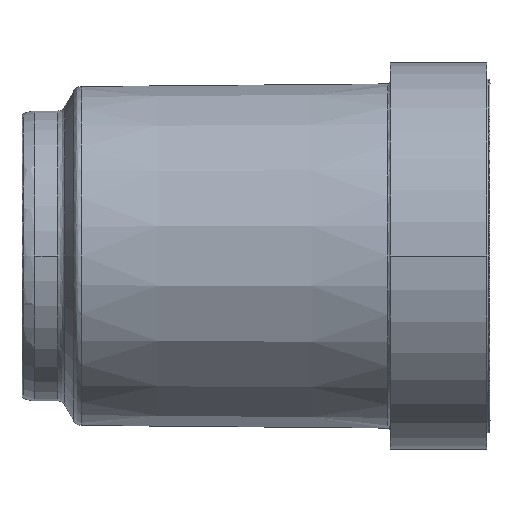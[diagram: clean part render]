
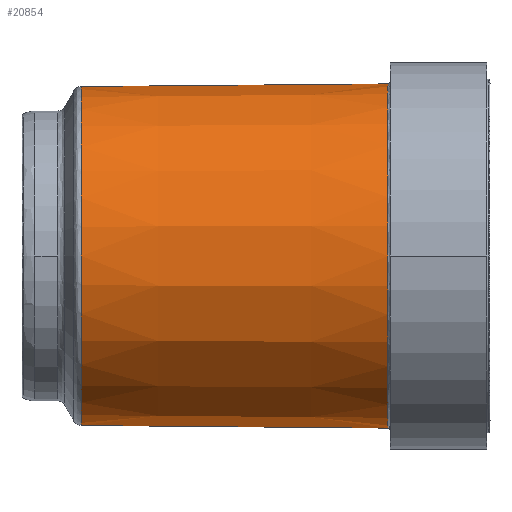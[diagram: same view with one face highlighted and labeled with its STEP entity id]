
A CAD part, front view. The second image highlights one B-rep face of the part: STEP entity #20854.
In plain terms, the highlighted conical face has half-angle 0.5 degrees and reference radius 14.027 mm.
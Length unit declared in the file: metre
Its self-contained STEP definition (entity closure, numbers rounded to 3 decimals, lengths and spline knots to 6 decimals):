
#377 = CARTESIAN_POINT ( 'NONE',  ( 0.004904, 0., 0.014027 ) ) ;
#456 = LINE ( 'NONE', #377, #746 ) ;
#746 = VECTOR ( 'NONE', #5817, 1. ) ;
#759 = EDGE_CURVE ( 'NONE', #23648, #4043, #456, .T. ) ;
#1411 = VECTOR ( 'NONE', #6828, 1. ) ;
#2283 = AXIS2_PLACEMENT_3D ( 'NONE', #21856, #21779, #19942 ) ;
#4043 = VERTEX_POINT ( 'NONE', #15145 ) ;
#4600 = FACE_OUTER_BOUND ( 'NONE', #9175, .T. ) ;
#4884 = VERTEX_POINT ( 'NONE', #17747 ) ;
#5817 = DIRECTION ( 'NONE',  ( 1., 0., 0.009 ) ) ;
#6828 = DIRECTION ( 'NONE',  ( 1., 0., -0.009 ) ) ;
#7494 = CARTESIAN_POINT ( 'NONE',  ( 0.030302, 0., 0. ) ) ;
#7567 = DIRECTION ( 'NONE',  ( 1., 0., 0. ) ) ;
#7716 = DIRECTION ( 'NONE',  ( 0., 0., -1. ) ) ;
#8559 = CARTESIAN_POINT ( 'NONE',  ( 0.004904, 0., 0. ) ) ;
#9175 = EDGE_LOOP ( 'NONE', ( #13103, #10037, #13514, #18260 ) ) ;
#9435 = CONICAL_SURFACE ( 'NONE', #9544, 0.014027, 0.009 ) ;
#9517 = VERTEX_POINT ( 'NONE', #20886 ) ;
#9544 = AXIS2_PLACEMENT_3D ( 'NONE', #8559, #23064, #17794 ) ;
#10037 = ORIENTED_EDGE ( 'NONE', *, *, #13761, .F. ) ;
#10414 = CARTESIAN_POINT ( 'NONE',  ( 0.004904, 0., -0.014027 ) ) ;
#10582 = EDGE_CURVE ( 'NONE', #4043, #4884, #17783, .T. ) ;
#13103 = ORIENTED_EDGE ( 'NONE', *, *, #759, .F. ) ;
#13514 = ORIENTED_EDGE ( 'NONE', *, *, #21884, .T. ) ;
#13558 = AXIS2_PLACEMENT_3D ( 'NONE', #7494, #7567, #7716 ) ;
#13761 = EDGE_CURVE ( 'NONE', #9517, #23648, #16276, .T. ) ;
#14236 = LINE ( 'NONE', #10414, #1411 ) ;
#15145 = CARTESIAN_POINT ( 'NONE',  ( 0.030302, 0., 0.014248 ) ) ;
#16276 = CIRCLE ( 'NONE', #2283, 0.014027 ) ;
#17747 = CARTESIAN_POINT ( 'NONE',  ( 0.030302, 0., -0.014248 ) ) ;
#17783 = CIRCLE ( 'NONE', #13558, 0.014248 ) ;
#17794 = DIRECTION ( 'NONE',  ( 0., 0., -1. ) ) ;
#18260 = ORIENTED_EDGE ( 'NONE', *, *, #10582, .F. ) ;
#19942 = DIRECTION ( 'NONE',  ( 0., -1., 0. ) ) ;
#20854 = ADVANCED_FACE ( 'NONE', ( #4600 ), #9435, .T. ) ;
#20886 = CARTESIAN_POINT ( 'NONE',  ( 0.004904, 0., -0.014027 ) ) ;
#21414 = CARTESIAN_POINT ( 'NONE',  ( 0.004904, 0., 0.014027 ) ) ;
#21779 = DIRECTION ( 'NONE',  ( -1., 0., 0. ) ) ;
#21856 = CARTESIAN_POINT ( 'NONE',  ( 0.004904, 0., 0. ) ) ;
#21884 = EDGE_CURVE ( 'NONE', #9517, #4884, #14236, .T. ) ;
#23064 = DIRECTION ( 'NONE',  ( 1., 0., 0. ) ) ;
#23648 = VERTEX_POINT ( 'NONE', #21414 ) ;
